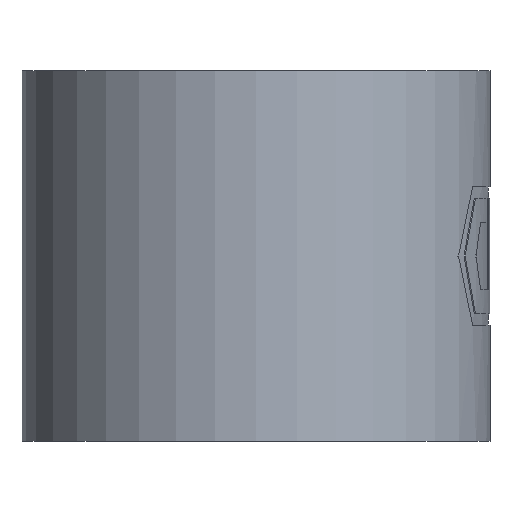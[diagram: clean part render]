
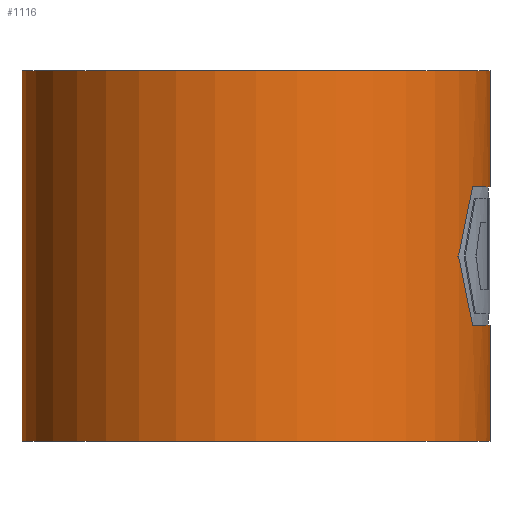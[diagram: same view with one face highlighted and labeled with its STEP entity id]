
A CAD part, front view. The second image highlights one B-rep face of the part: STEP entity #1116.
In plain terms, the highlighted cylindrical face has radius 4.1 mm (diameter 8.2 mm), a partial arc.
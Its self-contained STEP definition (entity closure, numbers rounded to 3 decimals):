
#130 = DIRECTION ( 'NONE',  ( 0., 0., 1. ) ) ;
#131 = CARTESIAN_POINT ( 'NONE',  ( 0., 0., 0. ) ) ;
#135 = DIRECTION ( 'NONE',  ( 1., 0., 0. ) ) ;
#136 = CARTESIAN_POINT ( 'NONE',  ( 4.1, 0., 0. ) ) ;
#137 = DIRECTION ( 'NONE',  ( 0., 0., -1. ) ) ;
#138 = VECTOR ( 'NONE', #137, 1000. ) ;
#139 = CARTESIAN_POINT ( 'NONE',  ( -4.1, 0., 6.5 ) ) ;
#141 = LINE ( 'NONE', #139, #138 ) ;
#160 = CARTESIAN_POINT ( 'NONE',  ( 3.796, -1.549, 4.465 ) ) ;
#161 = B_SPLINE_CURVE_WITH_KNOTS ( 'NONE', 3,
 ( #165, #164, #163, #162 ),
 .UNSPECIFIED., .F., .F.,
 ( 4, 4 ),
 ( 0., 1. ),
 .UNSPECIFIED. ) ;
#162 = CARTESIAN_POINT ( 'NONE',  ( 3.55, -2.052, 3.25 ) ) ;
#163 = CARTESIAN_POINT ( 'NONE',  ( 3.643, -1.89, 3.641 ) ) ;
#164 = CARTESIAN_POINT ( 'NONE',  ( 3.725, -1.722, 4.046 ) ) ;
#165 = CARTESIAN_POINT ( 'NONE',  ( 3.796, -1.549, 4.465 ) ) ;
#166 = DIRECTION ( 'NONE',  ( 1., 0., 0. ) ) ;
#167 = DIRECTION ( 'NONE',  ( 0., 0., 1. ) ) ;
#168 = CARTESIAN_POINT ( 'NONE',  ( 0., 0., 6.5 ) ) ;
#169 = AXIS2_PLACEMENT_3D ( 'NONE', #168, #167, #166 ) ;
#170 = CIRCLE ( 'NONE', #169, 4.1 ) ;
#201 = CARTESIAN_POINT ( 'NONE',  ( 4.1, 0., 6.5 ) ) ;
#225 = CARTESIAN_POINT ( 'NONE',  ( -4.1, 0., 6.5 ) ) ;
#248 = AXIS2_PLACEMENT_3D ( 'NONE', #131, #130, #135 ) ;
#249 = CIRCLE ( 'NONE', #248, 4.1 ) ;
#269 = CARTESIAN_POINT ( 'NONE',  ( 0., 0., 2.035 ) ) ;
#271 = CARTESIAN_POINT ( 'NONE',  ( 3.796, -1.549, 2.035 ) ) ;
#272 = DIRECTION ( 'NONE',  ( 1., 0., 0. ) ) ;
#273 = DIRECTION ( 'NONE',  ( 0., 0., 1. ) ) ;
#274 = AXIS2_PLACEMENT_3D ( 'NONE', #269, #273, #272 ) ;
#275 = CIRCLE ( 'NONE', #274, 4.1 ) ;
#330 = CARTESIAN_POINT ( 'NONE',  ( 0., 0., 6.5 ) ) ;
#337 = FACE_OUTER_BOUND ( 'NONE', #1118, .T. ) ;
#352 = CARTESIAN_POINT ( 'NONE',  ( 3.796, -1.549, 2.035 ) ) ;
#356 = CARTESIAN_POINT ( 'NONE',  ( 0., 0., 4.465 ) ) ;
#358 = DIRECTION ( 'NONE',  ( -1., 0., 0. ) ) ;
#359 = DIRECTION ( 'NONE',  ( 0., 0., -1. ) ) ;
#360 = AXIS2_PLACEMENT_3D ( 'NONE', #330, #359, #358 ) ;
#361 = CYLINDRICAL_SURFACE ( 'NONE', #360, 4.1 ) ;
#373 = B_SPLINE_CURVE_WITH_KNOTS ( 'NONE', 3,
 ( #352, #377, #376, #375 ),
 .UNSPECIFIED., .F., .F.,
 ( 4, 4 ),
 ( 0., 1. ),
 .UNSPECIFIED. ) ;
#375 = CARTESIAN_POINT ( 'NONE',  ( 3.55, -2.052, 3.25 ) ) ;
#376 = CARTESIAN_POINT ( 'NONE',  ( 3.639, -1.898, 2.877 ) ) ;
#377 = CARTESIAN_POINT ( 'NONE',  ( 3.722, -1.73, 2.472 ) ) ;
#394 = DIRECTION ( 'NONE',  ( 0., 1., 0. ) ) ;
#395 = DIRECTION ( 'NONE',  ( 0., 0., -1. ) ) ;
#396 = AXIS2_PLACEMENT_3D ( 'NONE', #356, #395, #394 ) ;
#397 = CIRCLE ( 'NONE', #396, 4.1 ) ;
#456 = CARTESIAN_POINT ( 'NONE',  ( 3.55, -2.052, 3.25 ) ) ;
#484 = CARTESIAN_POINT ( 'NONE',  ( 4.1, 0., 4.465 ) ) ;
#504 = DIRECTION ( 'NONE',  ( 0., 0., -1. ) ) ;
#505 = VECTOR ( 'NONE', #504, 1000. ) ;
#506 = CARTESIAN_POINT ( 'NONE',  ( 4.1, 0., 6.5 ) ) ;
#507 = LINE ( 'NONE', #506, #505 ) ;
#569 = DIRECTION ( 'NONE',  ( 0., 0., -1. ) ) ;
#570 = VECTOR ( 'NONE', #569, 1000. ) ;
#571 = CARTESIAN_POINT ( 'NONE',  ( 4.1, 0., 6.5 ) ) ;
#572 = LINE ( 'NONE', #571, #570 ) ;
#641 = CARTESIAN_POINT ( 'NONE',  ( -4.1, 0., 0. ) ) ;
#650 = CARTESIAN_POINT ( 'NONE',  ( 4.1, 0., 2.035 ) ) ;
#995 = VERTEX_POINT ( 'NONE', #641 ) ;
#998 = VERTEX_POINT ( 'NONE', #650 ) ;
#1006 = EDGE_CURVE ( 'NONE', #998, #1011, #572, .T. ) ;
#1011 = VERTEX_POINT ( 'NONE', #136 ) ;
#1014 = EDGE_CURVE ( 'NONE', #1019, #995, #141, .T. ) ;
#1018 = VERTEX_POINT ( 'NONE', #201 ) ;
#1019 = VERTEX_POINT ( 'NONE', #225 ) ;
#1034 = ORIENTED_EDGE ( 'NONE', *, *, #1035, .F. ) ;
#1035 = EDGE_CURVE ( 'NONE', #1036, #1158, #161, .T. ) ;
#1036 = VERTEX_POINT ( 'NONE', #160 ) ;
#1037 = EDGE_CURVE ( 'NONE', #1019, #1018, #170, .T. ) ;
#1038 = ORIENTED_EDGE ( 'NONE', *, *, #1014, .T. ) ;
#1039 = ORIENTED_EDGE ( 'NONE', *, *, #1077, .T. ) ;
#1041 = ORIENTED_EDGE ( 'NONE', *, *, #1086, .F. ) ;
#1077 = EDGE_CURVE ( 'NONE', #995, #1011, #249, .T. ) ;
#1078 = ORIENTED_EDGE ( 'NONE', *, *, #1006, .F. ) ;
#1079 = ORIENTED_EDGE ( 'NONE', *, *, #1195, .F. ) ;
#1080 = ORIENTED_EDGE ( 'NONE', *, *, #1037, .F. ) ;
#1086 = EDGE_CURVE ( 'NONE', #1087, #998, #275, .T. ) ;
#1087 = VERTEX_POINT ( 'NONE', #271 ) ;
#1088 = ORIENTED_EDGE ( 'NONE', *, *, #1089, .T. ) ;
#1089 = EDGE_CURVE ( 'NONE', #1087, #1158, #373, .T. ) ;
#1116 = ADVANCED_FACE ( 'NONE', ( #337 ), #361, .T. ) ;
#1118 = EDGE_LOOP ( 'NONE', ( #1079, #1080, #1038, #1039, #1078, #1041, #1088, #1034, #1119 ) ) ;
#1119 = ORIENTED_EDGE ( 'NONE', *, *, #1120, .F. ) ;
#1120 = EDGE_CURVE ( 'NONE', #1185, #1036, #397, .T. ) ;
#1158 = VERTEX_POINT ( 'NONE', #456 ) ;
#1185 = VERTEX_POINT ( 'NONE', #484 ) ;
#1195 = EDGE_CURVE ( 'NONE', #1018, #1185, #507, .T. ) ;
